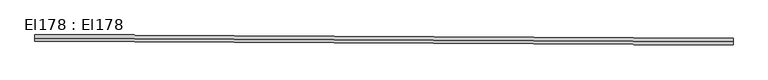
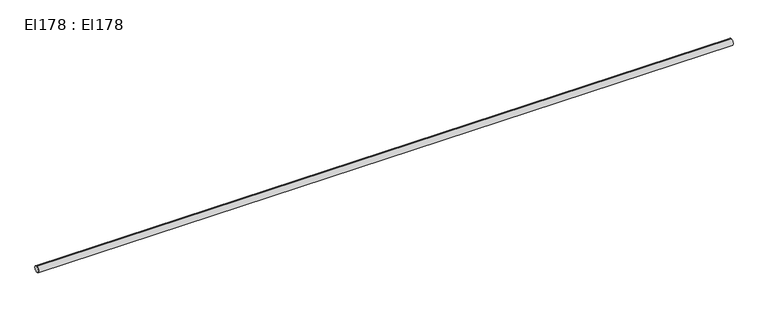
"""IFC4 building model written with IfcOpenShell, lengths in millimetres: cable carrier segment geometry, El178 : El178."""

from ifc_helpers import new_model, si_unit, point, frame, frame_2d, origin, place, context, project, spatial, circle_curve, trimmed, segment, composite_curve, outline, extrude, source, transform, mapped, element, save


def el178_el178_d436d57c(model_context):
    return source(origin(), model_context, "Body", "SweptSolid", [
        extrude(outline(composite_curve([segment(trimmed(circle_curve(frame_2d((0.0, -9.5)), 9.5), [point((0.0, -19.0))], [point((0.0, 0.0))], False, "CARTESIAN"), True, "CONTINUOUS"), segment(trimmed(circle_curve(frame_2d((0.0, -9.5)), 9.5), [point((0.0, 0.0))], [point((0.0, -19.0))], False, "CARTESIAN"), True, "CONTINUOUS")], self_intersect=False)), frame((5702.9663845, 34272.2827978, 309.5), z_axis=(-0.9999884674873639, 0.004802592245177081, 0.0), x_axis=(-0.004802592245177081, -0.9999884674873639, 0.0)), (0.0, 0.0, 1.0), 2047.73),
    ])


if __name__ == "__main__":
    model = new_model("IFC4")
    model_context = context("Model", 3, world=origin())
    ifc_project = project(units=[si_unit("LENGTHUNIT", "METRE", prefix="MILLI")], contexts=[model_context])
    site = spatial("IfcSite", under=ifc_project)
    building = spatial("IfcBuilding", under=site)
    placement = place(None, origin())
    el178_el178_shape = el178_el178_d436d57c(model_context)
    element("IfcCableCarrierSegment", 1, ObjectType="El178 : El178", at=placement, inside=building, context=model_context, shape_type="MappedRepresentation", body=[
        mapped(el178_el178_shape, transform((0.0, 0.0, 0.0), x_axis=(1.0, 0.0, 0.0), y_axis=(0.0, 1.0, 0.0), z_axis=(0.0, 0.0, 1.0))),
    ])
    save(model, "model.ifc")
